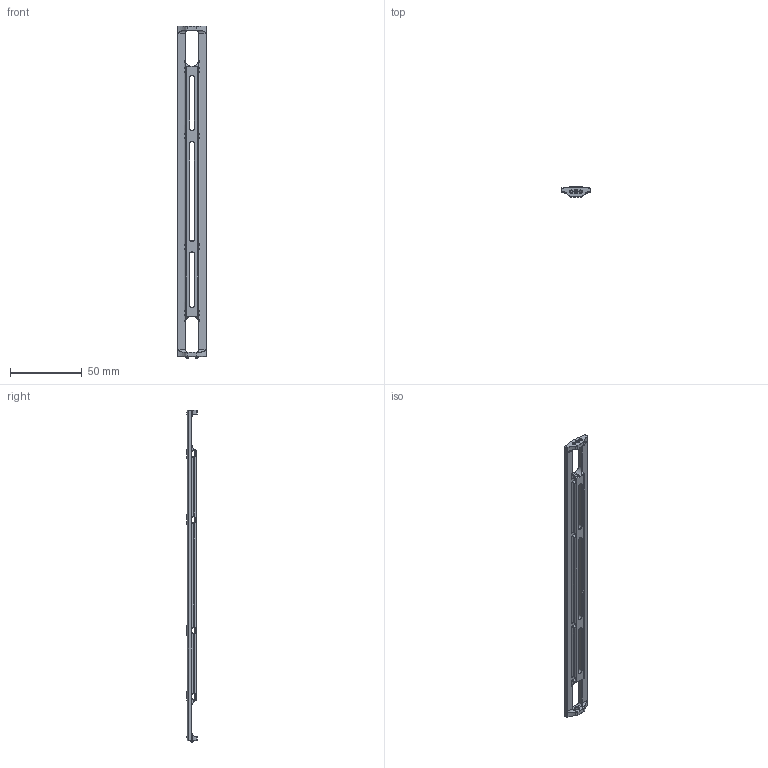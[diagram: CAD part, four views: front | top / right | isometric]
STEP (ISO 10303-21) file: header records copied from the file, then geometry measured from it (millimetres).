
FILE_DESCRIPTION (( 'STEP AP214' ), '1' );
FILE_NAME ('BR-102784-301_Rev_5.step', '2024-12-10T19:11:21', ( '' ), ( '' ), 'SwSTEP 2.0', 'SolidWorks 2024', '' );
FILE_SCHEMA (( 'AUTOMOTIVE_DESIGN' ));
Length unit declared in the file: millimetre
Products named in the file (1): BR-102784-301_Rev_5
Bounding box: 20 x 7.09 x 231 mm (x, y, z)
Volume: 13235.9 mm3; surface area: 12264.7 mm2
Topology: 1 solids, 1 shells, 358 faces, 875 edges, 491 vertices
Faces by surface type: plane 115, cylinder 86, cone 80, bspline 77
Entity records: 25002 total; most frequent: CARTESIAN_POINT 17546, ORIENTED_EDGE 1702, DIRECTION 1270, EDGE_CURVE 851, VERTEX_POINT 491, AXIS2_PLACEMENT_3D 456, EDGE_LOOP 380, VECTOR 358
